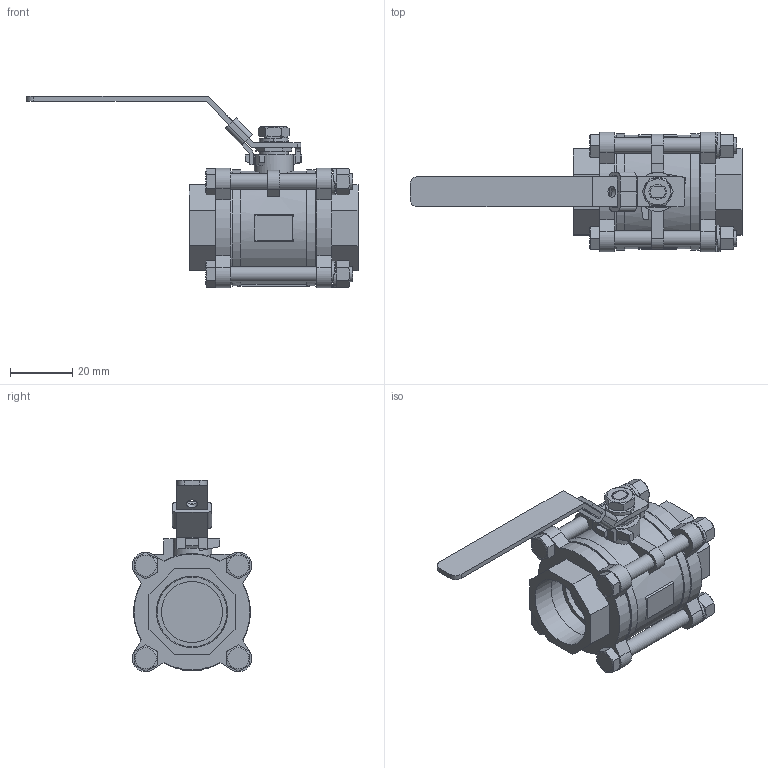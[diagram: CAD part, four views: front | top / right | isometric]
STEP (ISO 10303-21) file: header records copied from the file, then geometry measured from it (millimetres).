
FILE_DESCRIPTION((' '),'2;1');
FILE_NAME('N:\Technical Support\Private\Jomar Valve CAD\Ball Valves\CS and SS\2.0 T-SS-1000N-4B (500-308) FusionCopy.stp.step','2013-05-03T15:09:47',(' '),(' '),' ','ACIS',' ');
FILE_SCHEMA(('CONFIG_CONTROL_DESIGN'));
Length unit declared in the file: centimetre
Products named in the file (22): N:\Technical Support\Private\Jomar Valve CAD\Ball Valves\CS and SS\2.0 T-SS-1000N-4B (500-308) FusionCopy.stp.step; Body1; Body2; Body3; Body4; Body5; Body6; Body7; Body8; Body9; Body10; Body11; Body12; Body13; Body14; Body15; Body16; Body17; Body18; Body19; Body20; Body21
Assembly tree (21 placements, depth 2):
  N:\Technical Support\Private\Jomar Valve CAD\Ball Valves\CS and SS\2.0 T-SS-1000N-4B (500-308) FusionCopy.stp.step
    Body1
    Body2
    Body3
    Body4
    Body5
    Body6
    Body7
    Body8
    Body9
    Body10
    Body11
    Body12
    Body13
    Body14
    Body15
    Body16
    Body17
    Body18
    Body19
    Body20
    Body21
Bounding box: 106.92 x 38.48 x 61.63 mm (x, y, z)
Volume: 49636.8 mm3; surface area: 24028.1 mm2
Topology: 21 solids, 21 shells, 393 faces, 987 edges, 634 vertices
Faces by surface type: plane 170, bspline 133, cylinder 56, cone 34
Full cylindrical faces by diameter (mm): 3.53 x1, 4.29 x2, 4.86 x1, 4.94 x2, 5.45 x4, 6.69 x1, 7 x1, 9.32 x1, 12.65 x1, 19.7 x1, 22.527 x1
Entity records: 15217 total; most frequent: CARTESIAN_POINT 3396, ORIENTED_EDGE 1848, DIRECTION 1701, EDGE_CURVE 924, VERTEX_POINT 615, AXIS2_PLACEMENT_3D 570, VECTOR 561, LINE 561
